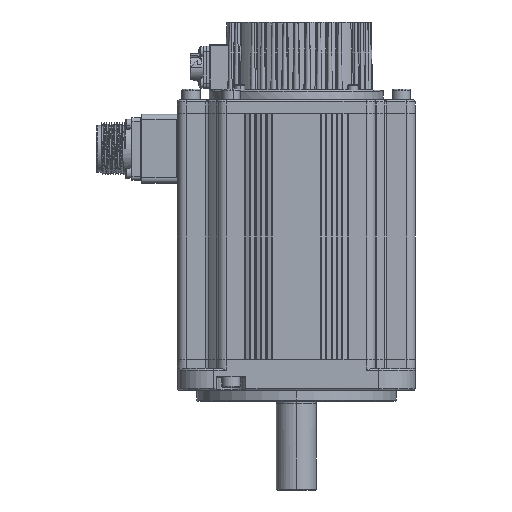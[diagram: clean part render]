
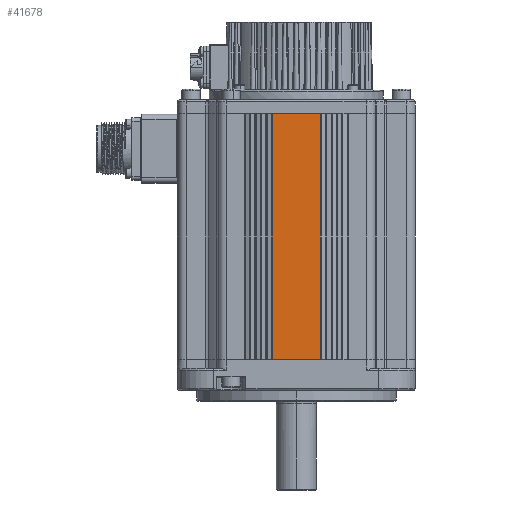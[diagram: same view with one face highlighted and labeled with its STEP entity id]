
A CAD part, left-side view. The second image highlights one B-rep face of the part: STEP entity #41678.
In plain terms, the highlighted planar face has unit normal (-1, 0, 0).
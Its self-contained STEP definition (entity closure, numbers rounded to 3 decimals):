
#1308 = EDGE_CURVE ( 'NONE', #22924, #118004, #82964, .T. ) ;
#4393 = VECTOR ( 'NONE', #10965, 1000. ) ;
#5210 = EDGE_CURVE ( 'NONE', #97468, #127262, #34629, .T. ) ;
#10965 = DIRECTION ( 'NONE',  ( 0., -1., 0. ) ) ;
#12195 = ORIENTED_EDGE ( 'NONE', *, *, #80085, .T. ) ;
#22706 = DIRECTION ( 'NONE',  ( 0., 1., 0. ) ) ;
#22924 = VERTEX_POINT ( 'NONE', #40855 ) ;
#26964 = VECTOR ( 'NONE', #78217, 1000. ) ;
#31146 = VECTOR ( 'NONE', #106578, 1000. ) ;
#32147 = CARTESIAN_POINT ( 'NONE',  ( -65.5, -13.5, 135.5 ) ) ;
#33764 = ORIENTED_EDGE ( 'NONE', *, *, #1308, .F. ) ;
#34629 = LINE ( 'NONE', #67412, #26964 ) ;
#36581 = ORIENTED_EDGE ( 'NONE', *, *, #125145, .T. ) ;
#37834 = CARTESIAN_POINT ( 'NONE',  ( -65.5, -13.2, 135.5 ) ) ;
#40855 = CARTESIAN_POINT ( 'NONE',  ( -65.5, 13.2, 135.5 ) ) ;
#41678 = ADVANCED_FACE ( 'NONE', ( #71374 ), #71361, .F. ) ;
#47026 = ORIENTED_EDGE ( 'NONE', *, *, #5210, .T. ) ;
#48574 = CARTESIAN_POINT ( 'NONE',  ( -65.5, 13.2, 135.5 ) ) ;
#50303 = DIRECTION ( 'NONE',  ( 1., 0., 0. ) ) ;
#55072 = CARTESIAN_POINT ( 'NONE',  ( -65.5, -13.2, 135.5 ) ) ;
#59227 = CARTESIAN_POINT ( 'NONE',  ( -65.5, 13.2, 0. ) ) ;
#67412 = CARTESIAN_POINT ( 'NONE',  ( -65.5, -13.5, 0. ) ) ;
#68074 = LINE ( 'NONE', #37834, #31146 ) ;
#71361 = PLANE ( 'NONE',  #104820 ) ;
#71374 = FACE_OUTER_BOUND ( 'NONE', #74472, .T. ) ;
#74472 = EDGE_LOOP ( 'NONE', ( #47026, #12195, #33764, #36581 ) ) ;
#78217 = DIRECTION ( 'NONE',  ( 0., -1., 0. ) ) ;
#80085 = EDGE_CURVE ( 'NONE', #127262, #118004, #68074, .T. ) ;
#82964 = LINE ( 'NONE', #99933, #4393 ) ;
#86874 = DIRECTION ( 'NONE',  ( 0., 0., -1. ) ) ;
#97468 = VERTEX_POINT ( 'NONE', #59227 ) ;
#99933 = CARTESIAN_POINT ( 'NONE',  ( -65.5, -13.5, 135.5 ) ) ;
#100179 = VECTOR ( 'NONE', #86874, 1000. ) ;
#104820 = AXIS2_PLACEMENT_3D ( 'NONE', #32147, #50303, #22706 ) ;
#106578 = DIRECTION ( 'NONE',  ( 0., 0., 1. ) ) ;
#118004 = VERTEX_POINT ( 'NONE', #55072 ) ;
#123219 = LINE ( 'NONE', #48574, #100179 ) ;
#123227 = CARTESIAN_POINT ( 'NONE',  ( -65.5, -13.2, 0. ) ) ;
#125145 = EDGE_CURVE ( 'NONE', #22924, #97468, #123219, .T. ) ;
#127262 = VERTEX_POINT ( 'NONE', #123227 ) ;
